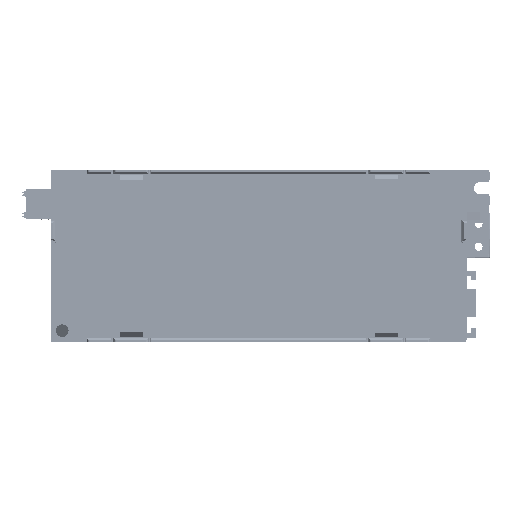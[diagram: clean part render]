
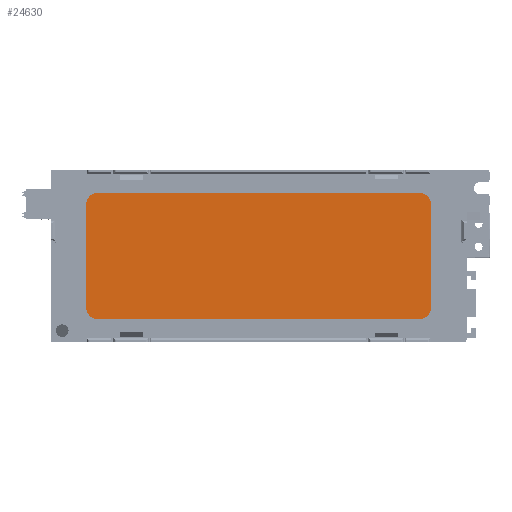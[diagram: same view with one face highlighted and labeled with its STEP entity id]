
A CAD part, front view. The second image highlights one B-rep face of the part: STEP entity #24630.
In plain terms, the highlighted planar face has unit normal (0, -1, 0).
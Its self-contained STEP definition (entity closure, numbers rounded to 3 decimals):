
#9436=CARTESIAN_POINT('',(70.,0.5,-22.5));
#9437=DIRECTION('',(0.,-1.,0.));
#9438=DIRECTION('',(0.,0.,-1.));
#9439=AXIS2_PLACEMENT_3D('',#9436,#9437,#9438);
#9441=DIRECTION('',(1.,0.,0.));
#9442=VECTOR('',#9441,140.);
#9443=CARTESIAN_POINT('',(-70.,0.5,-27.5));
#9444=LINE('',#9443,#9442);
#9445=CARTESIAN_POINT('',(-70.,0.5,-22.5));
#9446=DIRECTION('',(0.,-1.,0.));
#9447=DIRECTION('',(-1.,0.,0.));
#9448=AXIS2_PLACEMENT_3D('',#9445,#9446,#9447);
#9450=DIRECTION('',(0.,0.,-1.));
#9451=VECTOR('',#9450,45.);
#9452=CARTESIAN_POINT('',(-75.,0.5,22.5));
#9453=LINE('',#9452,#9451);
#9454=CARTESIAN_POINT('',(-70.,0.5,22.5));
#9455=DIRECTION('',(0.,-1.,0.));
#9456=DIRECTION('',(0.,0.,1.));
#9457=AXIS2_PLACEMENT_3D('',#9454,#9455,#9456);
#9459=DIRECTION('',(-1.,0.,0.));
#9460=VECTOR('',#9459,140.);
#9461=CARTESIAN_POINT('',(70.,0.5,27.5));
#9462=LINE('',#9461,#9460);
#9463=CARTESIAN_POINT('',(70.,0.5,22.5));
#9464=DIRECTION('',(0.,-1.,0.));
#9465=DIRECTION('',(1.,0.,0.));
#9466=AXIS2_PLACEMENT_3D('',#9463,#9464,#9465);
#9468=DIRECTION('',(0.,0.,1.));
#9469=VECTOR('',#9468,45.);
#9470=CARTESIAN_POINT('',(75.,0.5,-22.5));
#9471=LINE('',#9470,#9469);
#11460=CARTESIAN_POINT('',(70.,0.5,-27.5));
#11461=CARTESIAN_POINT('',(75.,0.5,-22.5));
#11462=VERTEX_POINT('',#11460);
#11463=VERTEX_POINT('',#11461);
#11468=CARTESIAN_POINT('',(-75.,0.5,-22.5));
#11469=CARTESIAN_POINT('',(-70.,0.5,-27.5));
#11470=VERTEX_POINT('',#11468);
#11471=VERTEX_POINT('',#11469);
#11476=CARTESIAN_POINT('',(-70.,0.5,27.5));
#11477=CARTESIAN_POINT('',(-75.,0.5,22.5));
#11478=VERTEX_POINT('',#11476);
#11479=VERTEX_POINT('',#11477);
#11484=CARTESIAN_POINT('',(75.,0.5,22.5));
#11485=CARTESIAN_POINT('',(70.,0.5,27.5));
#11486=VERTEX_POINT('',#11484);
#11487=VERTEX_POINT('',#11485);
#24609=CARTESIAN_POINT('',(0.,0.5,0.));
#24610=DIRECTION('',(0.,-1.,0.));
#24611=DIRECTION('',(-1.,0.,0.));
#24612=AXIS2_PLACEMENT_3D('',#24609,#24610,#24611);
#24613=PLANE('',#24612);
#24615=ORIENTED_EDGE('',*,*,#24614,.F.);
#24617=ORIENTED_EDGE('',*,*,#24616,.F.);
#24618=ORIENTED_EDGE('',*,*,#24600,.F.);
#24619=ORIENTED_EDGE('',*,*,#24590,.F.);
#24621=ORIENTED_EDGE('',*,*,#24620,.F.);
#24623=ORIENTED_EDGE('',*,*,#24622,.F.);
#24625=ORIENTED_EDGE('',*,*,#24624,.F.);
#24627=ORIENTED_EDGE('',*,*,#24626,.F.);
#24628=EDGE_LOOP('',(#24615,#24617,#24618,#24619,#24621,#24623,#24625,#24627));
#24629=FACE_OUTER_BOUND('',#24628,.F.);
#24630=ADVANCED_FACE('',(#24629),#24613,.T.);
#9440=CIRCLE('',#9439,5.);
#9449=CIRCLE('',#9448,5.);
#9458=CIRCLE('',#9457,5.);
#9467=CIRCLE('',#9466,5.);
#24590=EDGE_CURVE('',#11479,#11470,#9453,.T.);
#24600=EDGE_CURVE('',#11470,#11471,#9449,.T.);
#24614=EDGE_CURVE('',#11462,#11463,#9440,.T.);
#24616=EDGE_CURVE('',#11471,#11462,#9444,.T.);
#24620=EDGE_CURVE('',#11478,#11479,#9458,.T.);
#24622=EDGE_CURVE('',#11487,#11478,#9462,.T.);
#24624=EDGE_CURVE('',#11486,#11487,#9467,.T.);
#24626=EDGE_CURVE('',#11463,#11486,#9471,.T.);
